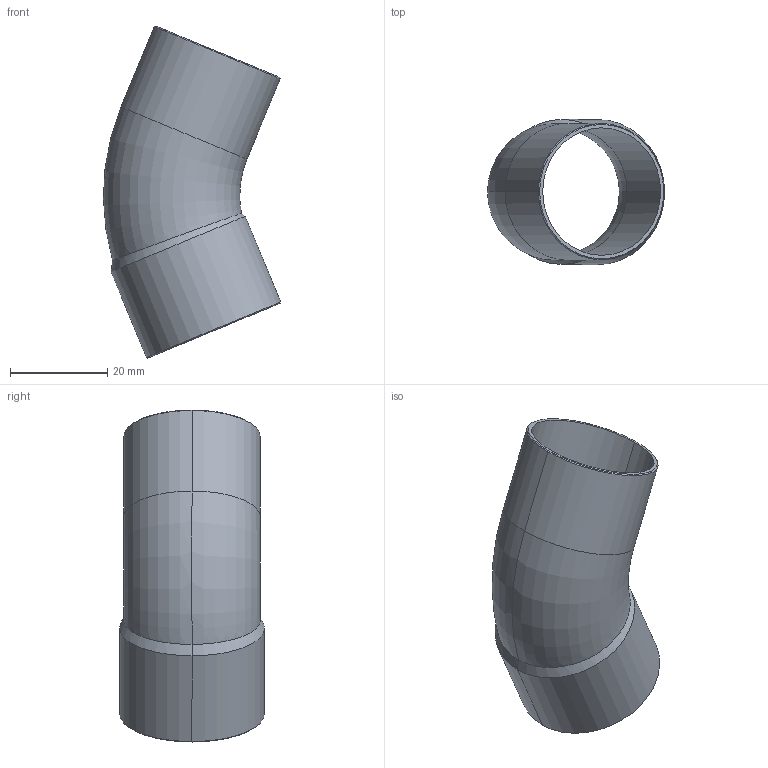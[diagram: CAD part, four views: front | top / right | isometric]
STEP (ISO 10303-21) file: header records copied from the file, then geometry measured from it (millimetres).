
FILE_DESCRIPTION((''),'2;1');
FILE_NAME('P:\Bouwmaten\z-maattekeningen 3D\5000\5040\1504028.stp','2005-10-05T11:19:05',('Kris'),(''),'Autodesk Inventor 8','Autodesk Inventor 8','');
FILE_SCHEMA(('AUTOMOTIVE_DESIGN { 1 0 10303 214 1 1 1 1 }'));
Length unit declared in the file: millimetre
Products named in the file (1): 1504028
Bounding box: 36.4 x 29.8 x 68.19 mm (x, y, z)
Volume: 4753.3 mm3; surface area: 10701.6 mm2
Topology: 1 solids, 1 shells, 24 faces, 50 edges, 28 vertices
Faces by surface type: cone 10, cylinder 8, torus 4, plane 2
Entity records: 729 total; most frequent: CARTESIAN_POINT 179, DIRECTION 124, ORIENTED_EDGE 100, AXIS2_PLACEMENT_3D 53, EDGE_CURVE 50, VERTEX_POINT 28, CIRCLE 28, EDGE_LOOP 26
